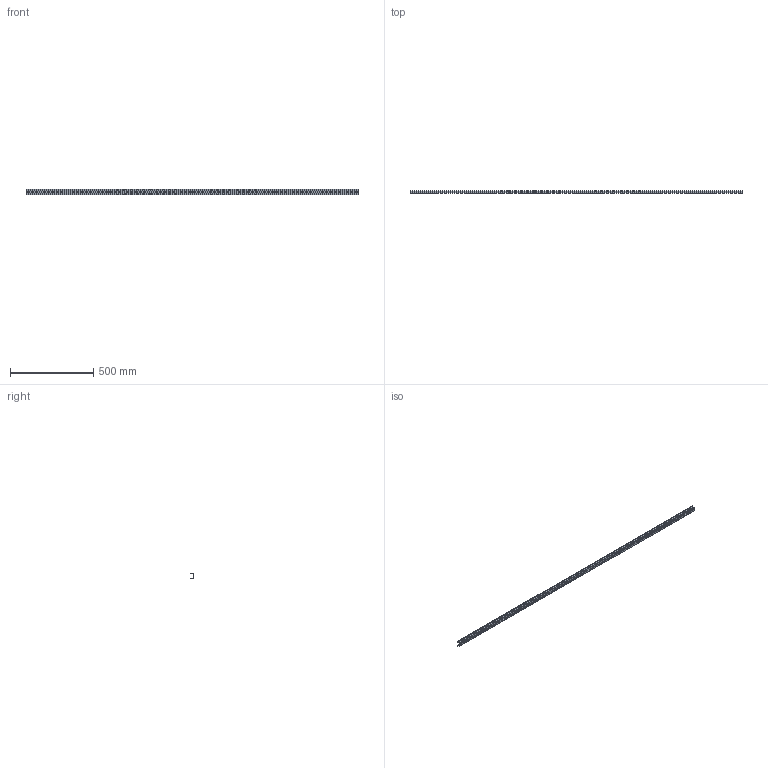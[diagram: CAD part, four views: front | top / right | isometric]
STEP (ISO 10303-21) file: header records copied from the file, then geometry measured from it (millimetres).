
FILE_DESCRIPTION (( 'STEP AP203' ), '1' );
FILE_NAME ('DIN 15.2000 DIN-ðåéêà.STEP', '2023-10-27T14:11:58', ( '' ), ( '' ), 'SwSTEP 2.0', 'SolidWorks 2019', '' );
FILE_SCHEMA (( 'CONFIG_CONTROL_DESIGN' ));
Length unit declared in the file: millimetre
Products named in the file (1): DIN 15.2000 DIN-ðåéêà
Bounding box: 2000 x 15 x 35 mm (x, y, z)
Volume: 133197 mm3; surface area: 231037 mm2
Topology: 1 solids, 1 shells, 362 faces, 1048 edges, 688 vertices
Faces by surface type: plane 194, cylinder 168
Entity records: 12345 total; most frequent: DIRECTION 2110, CARTESIAN_POINT 2099, ORIENTED_EDGE 2096, EDGE_CURVE 1048, LINE 712, VECTOR 712, AXIS2_PLACEMENT_3D 699, VERTEX_POINT 688
